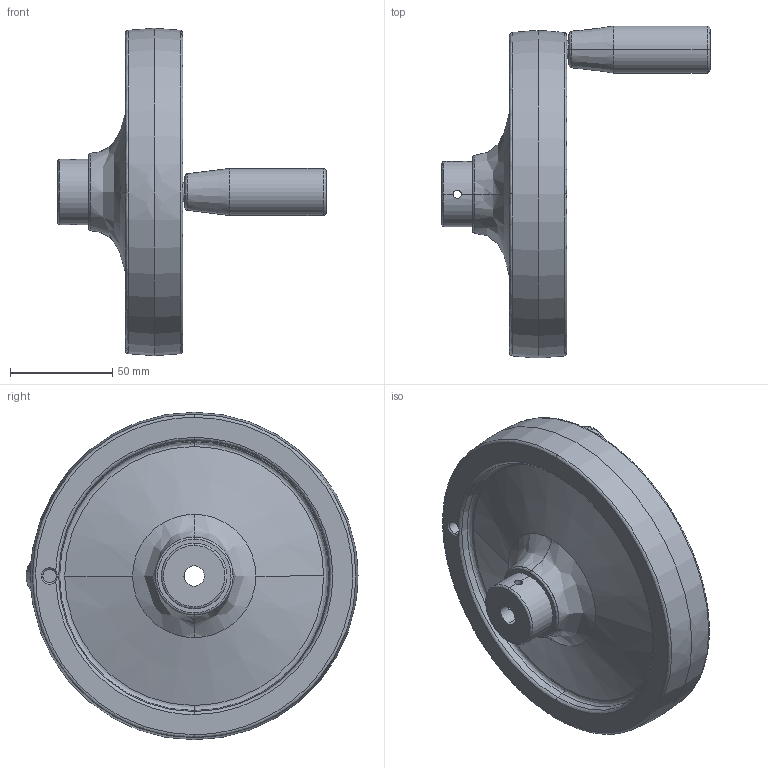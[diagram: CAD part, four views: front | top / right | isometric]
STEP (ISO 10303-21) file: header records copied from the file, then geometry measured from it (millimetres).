
FILE_DESCRIPTION (( 'STEP AP214' ), '1' );
FILE_NAME ('FGAW 160X10A.step', '2017-04-05T08:04:43', ( '' ), ( '' ), 'SwSTEP 2.0', 'SolidWorks 2015', '' );
FILE_SCHEMA (( 'AUTOMOTIVE_DESIGN' ));
Length unit declared in the file: millimetre
Products named in the file (1): FGAW 160X10A
Bounding box: 131 x 162.17 x 160 mm (x, y, z)
Volume: 319397.6 mm3; surface area: 72418 mm2
Topology: 2 solids, 2 shells, 161 faces, 417 edges, 263 vertices
Faces by surface type: bspline 66, plane 36, cylinder 28, torus 17, cone 14
Entity records: 8431 total; most frequent: CARTESIAN_POINT 3187, ORIENTED_EDGE 826, DIRECTION 628, EDGE_CURVE 413, VERTEX_POINT 263, AXIS2_PLACEMENT_3D 258, EDGE_LOOP 178, CIRCLE 162
